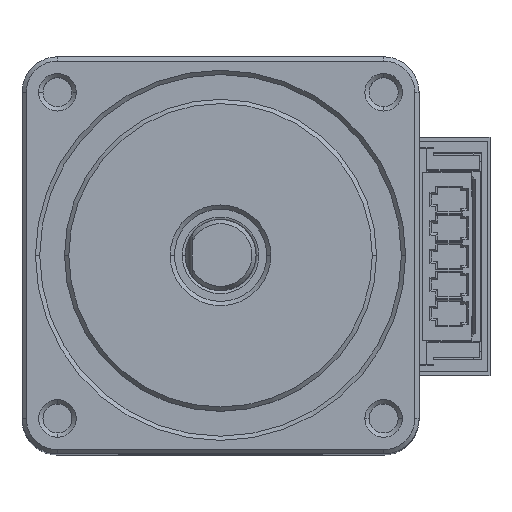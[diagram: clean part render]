
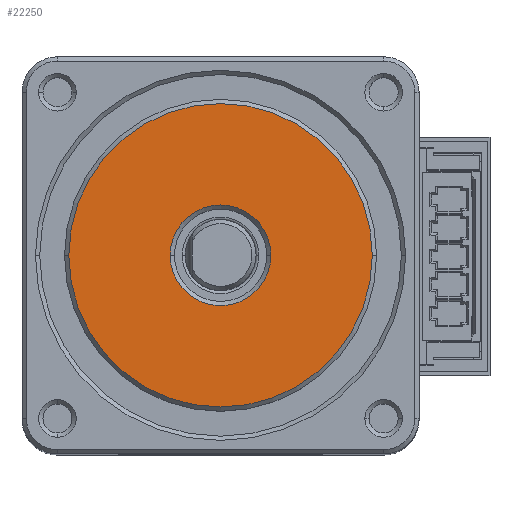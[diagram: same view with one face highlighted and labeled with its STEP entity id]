
A CAD part, top view. The second image highlights one B-rep face of the part: STEP entity #22250.
In plain terms, the highlighted planar face has unit normal (0, 0, 1).
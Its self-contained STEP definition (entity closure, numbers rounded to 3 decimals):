
#2975=CARTESIAN_POINT('',(0.,0.,10.));
#2976=DIRECTION('',(0.,0.,1.));
#2977=DIRECTION('',(-1.,0.,0.));
#2978=AXIS2_PLACEMENT_3D('',#2975,#2976,#2977);
#2980=CARTESIAN_POINT('',(0.,0.,10.));
#2981=DIRECTION('',(0.,0.,1.));
#2982=DIRECTION('',(1.,0.,0.));
#2983=AXIS2_PLACEMENT_3D('',#2980,#2981,#2982);
#2985=CARTESIAN_POINT('',(0.,0.,10.));
#2986=DIRECTION('',(0.,0.,-1.));
#2987=DIRECTION('',(1.,0.,0.));
#2988=AXIS2_PLACEMENT_3D('',#2985,#2986,#2987);
#2990=CARTESIAN_POINT('',(0.,0.,10.));
#2991=DIRECTION('',(0.,0.,-1.));
#2992=DIRECTION('',(-1.,0.,0.));
#2993=AXIS2_PLACEMENT_3D('',#2990,#2991,#2992);
#14514=CARTESIAN_POINT('',(-10.7,0.,10.));
#14515=CARTESIAN_POINT('',(10.7,0.,10.));
#14516=VERTEX_POINT('',#14514);
#14517=VERTEX_POINT('',#14515);
#14522=CARTESIAN_POINT('',(3.55,0.,10.));
#14523=CARTESIAN_POINT('',(-3.55,0.,10.));
#14524=VERTEX_POINT('',#14522);
#14525=VERTEX_POINT('',#14523);
#22234=CARTESIAN_POINT('',(0.,0.,10.));
#22235=DIRECTION('',(0.,0.,1.));
#22236=DIRECTION('',(1.,0.,0.));
#22237=AXIS2_PLACEMENT_3D('',#22234,#22235,#22236);
#22238=PLANE('',#22237);
#22239=ORIENTED_EDGE('',*,*,#22224,.F.);
#22241=ORIENTED_EDGE('',*,*,#22240,.F.);
#22242=EDGE_LOOP('',(#22239,#22241));
#22243=FACE_OUTER_BOUND('',#22242,.F.);
#22245=ORIENTED_EDGE('',*,*,#22244,.F.);
#22247=ORIENTED_EDGE('',*,*,#22246,.F.);
#22248=EDGE_LOOP('',(#22245,#22247));
#22249=FACE_BOUND('',#22248,.F.);
#22250=ADVANCED_FACE('',(#22243,#22249),#22238,.T.);
#2979=CIRCLE('',#2978,10.7);
#2984=CIRCLE('',#2983,10.7);
#2989=CIRCLE('',#2988,3.55);
#2994=CIRCLE('',#2993,3.55);
#22224=EDGE_CURVE('',#14516,#14517,#2979,.T.);
#22240=EDGE_CURVE('',#14517,#14516,#2984,.T.);
#22244=EDGE_CURVE('',#14524,#14525,#2989,.T.);
#22246=EDGE_CURVE('',#14525,#14524,#2994,.T.);
